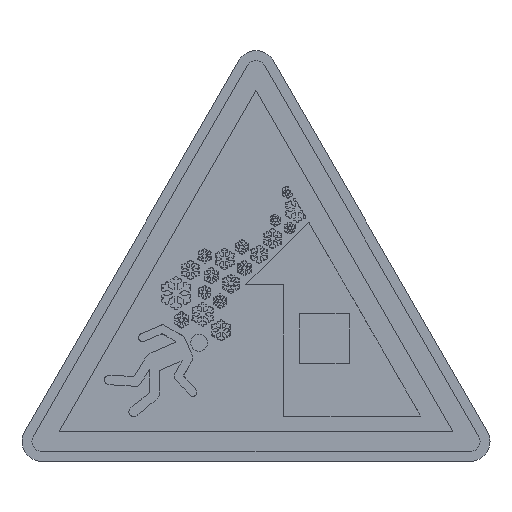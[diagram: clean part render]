
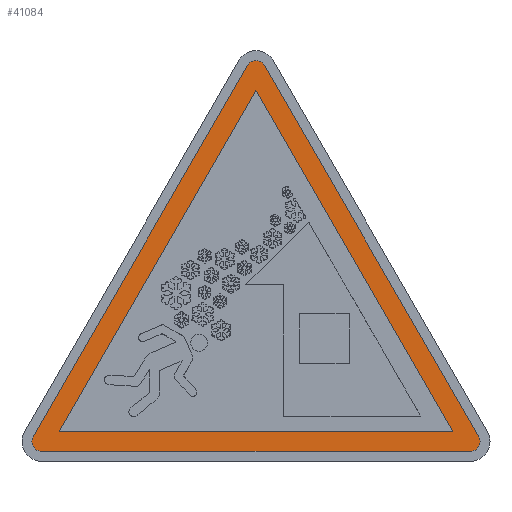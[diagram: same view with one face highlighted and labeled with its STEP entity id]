
A CAD part, top view. The second image highlights one B-rep face of the part: STEP entity #41084.
In plain terms, the highlighted planar face has unit normal (0, 0, 1).
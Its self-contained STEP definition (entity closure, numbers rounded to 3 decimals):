
#185 = DIRECTION ( 'NONE',  ( -0.5, 0.866, 0. ) ) ;
#1785 = CARTESIAN_POINT ( 'NONE',  ( -21.536, 1., 0.22 ) ) ;
#2208 = LINE ( 'NONE', #34852, #43182 ) ;
#2549 = CARTESIAN_POINT ( 'NONE',  ( -22.402, 2.5, 0.22 ) ) ;
#2696 = CARTESIAN_POINT ( 'NONE',  ( -0.866, 39.801, 0.22 ) ) ;
#2929 = ORIENTED_EDGE ( 'NONE', *, *, #37036, .T. ) ;
#3103 = LINE ( 'NONE', #36136, #19100 ) ;
#5299 = CARTESIAN_POINT ( 'NONE',  ( 21.536, 2., 0.22 ) ) ;
#5453 = CARTESIAN_POINT ( 'NONE',  ( 21.536, 1., 0.22 ) ) ;
#5534 = EDGE_CURVE ( 'NONE', #31019, #69591, #58495, .T. ) ;
#5694 = EDGE_CURVE ( 'NONE', #6183, #13234, #15149, .T. ) ;
#6003 = ORIENTED_EDGE ( 'NONE', *, *, #5694, .T. ) ;
#6144 = DIRECTION ( 'NONE',  ( 0., 0., 1. ) ) ;
#6183 = VERTEX_POINT ( 'NONE', #2549 ) ;
#6512 = ORIENTED_EDGE ( 'NONE', *, *, #5534, .F. ) ;
#8266 = DIRECTION ( 'NONE',  ( -0.5, -0.866, 0. ) ) ;
#9297 = ORIENTED_EDGE ( 'NONE', *, *, #13882, .F. ) ;
#9661 = CARTESIAN_POINT ( 'NONE',  ( 19.804, 3., 0.22 ) ) ;
#12689 = CARTESIAN_POINT ( 'NONE',  ( -19.804, 3., 0.22 ) ) ;
#13234 = VERTEX_POINT ( 'NONE', #1785 ) ;
#13866 = DIRECTION ( 'NONE',  ( -0.5, -0.866, 0. ) ) ;
#13882 = EDGE_CURVE ( 'NONE', #69591, #21999, #28870, .T. ) ;
#15149 = CIRCLE ( 'NONE', #63666, 1. ) ;
#15485 = CARTESIAN_POINT ( 'NONE',  ( 19.804, 3., 0.22 ) ) ;
#19074 = CARTESIAN_POINT ( 'NONE',  ( 22.402, 2.5, 0.22 ) ) ;
#19100 = VECTOR ( 'NONE', #29649, 1000. ) ;
#20152 = ORIENTED_EDGE ( 'NONE', *, *, #62848, .F. ) ;
#21999 = VERTEX_POINT ( 'NONE', #55721 ) ;
#22342 = DIRECTION ( 'NONE',  ( 0., 0., 1. ) ) ;
#24178 = CARTESIAN_POINT ( 'NONE',  ( 0., 39.301, 0.22 ) ) ;
#24797 = CIRCLE ( 'NONE', #27570, 1. ) ;
#25354 = DIRECTION ( 'NONE',  ( 1., 0., 0. ) ) ;
#27570 = AXIS2_PLACEMENT_3D ( 'NONE', #5299, #6144, #25354 ) ;
#27595 = LINE ( 'NONE', #65773, #35851 ) ;
#28870 = LINE ( 'NONE', #9661, #57877 ) ;
#29109 = VECTOR ( 'NONE', #34539, 1000. ) ;
#29649 = DIRECTION ( 'NONE',  ( 1., 0., 0. ) ) ;
#30196 = VERTEX_POINT ( 'NONE', #59561 ) ;
#30423 = EDGE_CURVE ( 'NONE', #13234, #67240, #3103, .T. ) ;
#31019 = VERTEX_POINT ( 'NONE', #12689 ) ;
#33133 = ORIENTED_EDGE ( 'NONE', *, *, #30423, .T. ) ;
#34539 = DIRECTION ( 'NONE',  ( 1., 0., 0. ) ) ;
#34852 = CARTESIAN_POINT ( 'NONE',  ( -0.866, 39.801, 0.22 ) ) ;
#34959 = DIRECTION ( 'NONE',  ( -0.5, 0.866, 0. ) ) ;
#35851 = VECTOR ( 'NONE', #185, 1000. ) ;
#36136 = CARTESIAN_POINT ( 'NONE',  ( -21.536, 1., 0.22 ) ) ;
#36937 = AXIS2_PLACEMENT_3D ( 'NONE', #50252, #43729, #50651 ) ;
#37036 = EDGE_CURVE ( 'NONE', #67240, #47621, #24797, .T. ) ;
#37486 = EDGE_LOOP ( 'NONE', ( #71492, #63865, #6003, #33133, #2929, #80658 ) ) ;
#39418 = CARTESIAN_POINT ( 'NONE',  ( -19.804, 3., 0.22 ) ) ;
#41084 = ADVANCED_FACE ( 'NONE', ( #74078, #81880 ), #47221, .T. ) ;
#41700 = EDGE_LOOP ( 'NONE', ( #6512, #20152, #9297 ) ) ;
#43182 = VECTOR ( 'NONE', #8266, 1000. ) ;
#43571 = VECTOR ( 'NONE', #13866, 1000. ) ;
#43729 = DIRECTION ( 'NONE',  ( 0., 0., 1. ) ) ;
#46080 = CARTESIAN_POINT ( 'NONE',  ( 0., 37.301, 0.22 ) ) ;
#47221 = PLANE ( 'NONE',  #69279 ) ;
#47621 = VERTEX_POINT ( 'NONE', #19074 ) ;
#48708 = EDGE_CURVE ( 'NONE', #47621, #30196, #27595, .T. ) ;
#49259 = DIRECTION ( 'NONE',  ( 1., 0., 0. ) ) ;
#50252 = CARTESIAN_POINT ( 'NONE',  ( 0., 39.301, 0.22 ) ) ;
#50651 = DIRECTION ( 'NONE',  ( 1., 0., 0. ) ) ;
#55344 = CARTESIAN_POINT ( 'NONE',  ( -21.536, 2., 0.22 ) ) ;
#55721 = CARTESIAN_POINT ( 'NONE',  ( 0., 37.301, 0.22 ) ) ;
#57877 = VECTOR ( 'NONE', #34959, 1000. ) ;
#58495 = LINE ( 'NONE', #39418, #29109 ) ;
#59561 = CARTESIAN_POINT ( 'NONE',  ( 0.866, 39.801, 0.22 ) ) ;
#62848 = EDGE_CURVE ( 'NONE', #21999, #31019, #65992, .T. ) ;
#63666 = AXIS2_PLACEMENT_3D ( 'NONE', #55344, #22342, #49259 ) ;
#63865 = ORIENTED_EDGE ( 'NONE', *, *, #71376, .T. ) ;
#64061 = DIRECTION ( 'NONE',  ( 0., 0., 1. ) ) ;
#65773 = CARTESIAN_POINT ( 'NONE',  ( 22.402, 2.5, 0.22 ) ) ;
#65947 = CIRCLE ( 'NONE', #36937, 1. ) ;
#65992 = LINE ( 'NONE', #46080, #43571 ) ;
#67240 = VERTEX_POINT ( 'NONE', #5453 ) ;
#69279 = AXIS2_PLACEMENT_3D ( 'NONE', #24178, #64061, #69322 ) ;
#69322 = DIRECTION ( 'NONE',  ( 1., 0., 0. ) ) ;
#69591 = VERTEX_POINT ( 'NONE', #15485 ) ;
#71376 = EDGE_CURVE ( 'NONE', #81886, #6183, #2208, .T. ) ;
#71492 = ORIENTED_EDGE ( 'NONE', *, *, #73742, .T. ) ;
#73742 = EDGE_CURVE ( 'NONE', #30196, #81886, #65947, .T. ) ;
#74078 = FACE_OUTER_BOUND ( 'NONE', #37486, .T. ) ;
#80658 = ORIENTED_EDGE ( 'NONE', *, *, #48708, .T. ) ;
#81880 = FACE_BOUND ( 'NONE', #41700, .T. ) ;
#81886 = VERTEX_POINT ( 'NONE', #2696 ) ;
